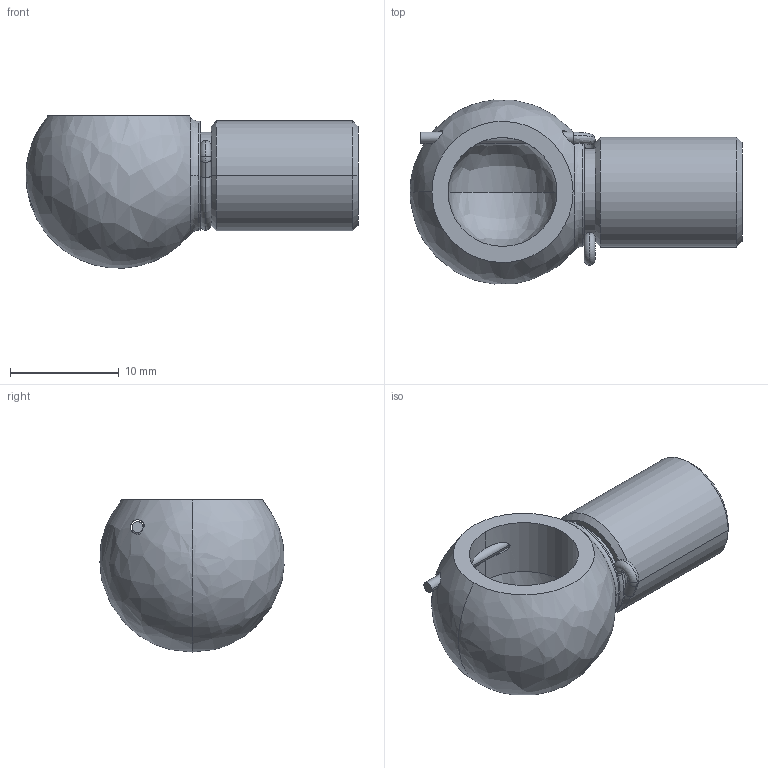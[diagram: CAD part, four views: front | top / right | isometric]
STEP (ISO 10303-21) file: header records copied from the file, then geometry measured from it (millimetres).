
FILE_DESCRIPTION (( 'STEP AP214' ), '1' );
FILE_NAME ('13.C10M8L22.STEP', '2018-01-08T13:24:26', ( '' ), ( '' ), 'SwSTEP 2.0', 'SolidWorks 2017', '' );
FILE_SCHEMA (( 'AUTOMOTIVE_DESIGN' ));
Length unit declared in the file: millimetre
Products named in the file (1): 13.C10M8L22
Bounding box: 30.5 x 16.91 x 13.98 mm (x, y, z)
Volume: 2366.2 mm3; surface area: 2134.5 mm2
Topology: 3 solids, 3 shells, 51 faces, 128 edges, 74 vertices
Faces by surface type: cylinder 18, plane 11, bspline 8, torus 8, cone 6
Entity records: 1931 total; most frequent: CARTESIAN_POINT 682, DIRECTION 273, ORIENTED_EDGE 240, AXIS2_PLACEMENT_3D 123, EDGE_CURVE 120, CIRCLE 79, VERTEX_POINT 74, EDGE_LOOP 56
